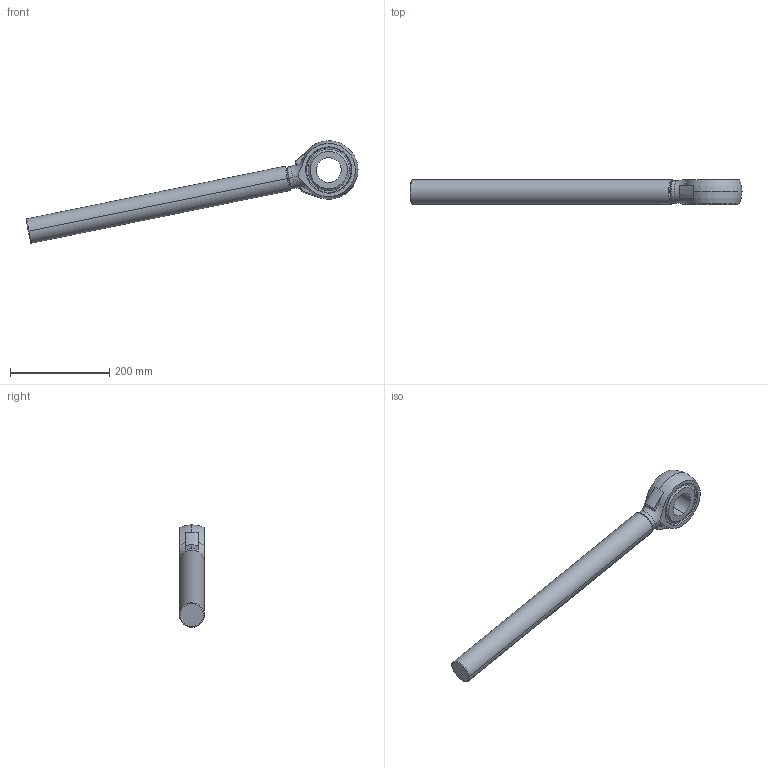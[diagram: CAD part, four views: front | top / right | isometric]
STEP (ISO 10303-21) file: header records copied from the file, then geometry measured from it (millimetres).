
FILE_DESCRIPTION (( 'STEP AP214' ), '1' );
FILE_NAME ('IRB6730-LID_190kg-310_OC_00_ROD_CAD.step', '2026-05-26T09:17:49', ( '' ), ( '' ), 'SwSTEP 2.0', 'SolidWorks 2024', '' );
FILE_SCHEMA (( 'AUTOMOTIVE_DESIGN' ));
Length unit declared in the file: millimetre
Products named in the file (1): IRB6730-LID_190kg-310_OC_00_ROD_CAD
Bounding box: 670.26 x 50.5 x 206.68 mm (x, y, z)
Volume: 1512340.6 mm3; surface area: 135243.1 mm2
Topology: 1 solids, 1 shells, 58 faces, 132 edges, 81 vertices
Faces by surface type: cylinder 17, plane 16, torus 12, cone 11, sphere 2
Entity records: 2527 total; most frequent: CARTESIAN_POINT 540, DIRECTION 304, ORIENTED_EDGE 264, AXIS2_PLACEMENT_3D 137, EDGE_CURVE 132, VERTEX_POINT 81, CIRCLE 78, EDGE_LOOP 65
